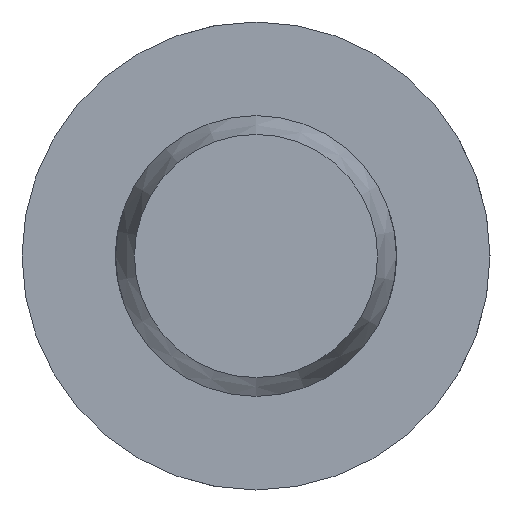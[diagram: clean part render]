
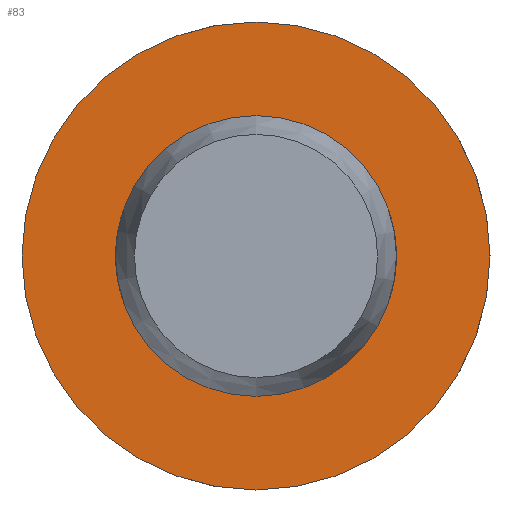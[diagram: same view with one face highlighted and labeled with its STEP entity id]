
A CAD part, left-side view. The second image highlights one B-rep face of the part: STEP entity #83.
In plain terms, the highlighted planar face has unit normal (-1, 0, 0).
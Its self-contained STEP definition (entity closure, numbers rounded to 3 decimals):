
#83 = ADVANCED_FACE( '', ( #129, #130 ), #131, .F. );
#129 = FACE_OUTER_BOUND( '', #208, .T. );
#130 = FACE_BOUND( '', #209, .T. );
#131 = PLANE( '', #210 );
#208 = EDGE_LOOP( '', ( #325 ) );
#209 = EDGE_LOOP( '', ( #326 ) );
#210 = AXIS2_PLACEMENT_3D( '', #327, #328, #329 );
#325 = ORIENTED_EDGE( '', *, *, #493, .F. );
#326 = ORIENTED_EDGE( '', *, *, #483, .T. );
#327 = CARTESIAN_POINT( '', ( 17., 3., 0. ) );
#328 = DIRECTION( '', ( 1., 0., 0. ) );
#329 = DIRECTION( '', ( 0., 0., -1. ) );
#483 = EDGE_CURVE( '', #554, #554, #555, .T. );
#493 = EDGE_CURVE( '', #572, #572, #573, .T. );
#554 = VERTEX_POINT( '', #741 );
#555 = CIRCLE( '', #742, 3. );
#572 = VERTEX_POINT( '', #850 );
#573 = CIRCLE( '', #851, 5. );
#741 = CARTESIAN_POINT( '', ( 17., 0., -3. ) );
#742 = AXIS2_PLACEMENT_3D( '', #914, #915, #916 );
#850 = CARTESIAN_POINT( '', ( 17., 0., -5. ) );
#851 = AXIS2_PLACEMENT_3D( '', #935, #936, #937 );
#914 = CARTESIAN_POINT( '', ( 17., 0., 0. ) );
#915 = DIRECTION( '', ( 1., 0., 0. ) );
#916 = DIRECTION( '', ( 0., 0., -1. ) );
#935 = CARTESIAN_POINT( '', ( 17., 0., 0. ) );
#936 = DIRECTION( '', ( 1., 0., 0. ) );
#937 = DIRECTION( '', ( 0., 0., -1. ) );
